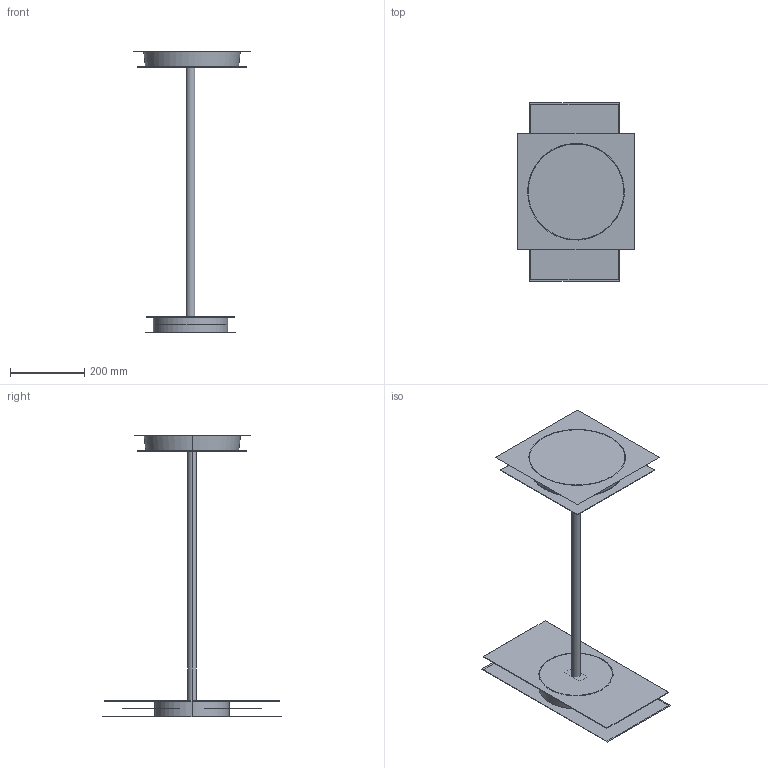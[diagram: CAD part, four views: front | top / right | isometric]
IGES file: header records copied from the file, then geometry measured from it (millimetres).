
Global section: file name: C:\Users\utente\Desktop\3d sito\BINCAN POSACENERE\BINCAN POSACENERE.igs; native system: Rhinoceros ( Mar  9 2011 ); preprocessor: Trout Lake IGES 012 Mar  9 2011; date: 170522.172019; units: millimetre
Bounding box: 312 x 480 x 757 mm (x, y, z)
Surface area: 1075441.7 mm2 (no closed solid volume)
Topology: 0 solids, 0 shells, 32 faces, 161 edges, 190 vertices
Faces by surface type: bspline 32
